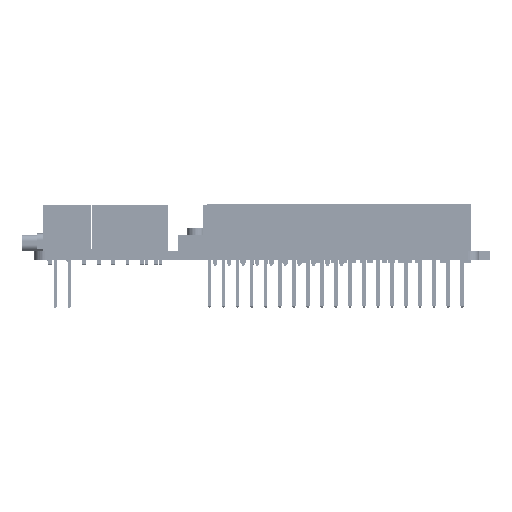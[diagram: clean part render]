
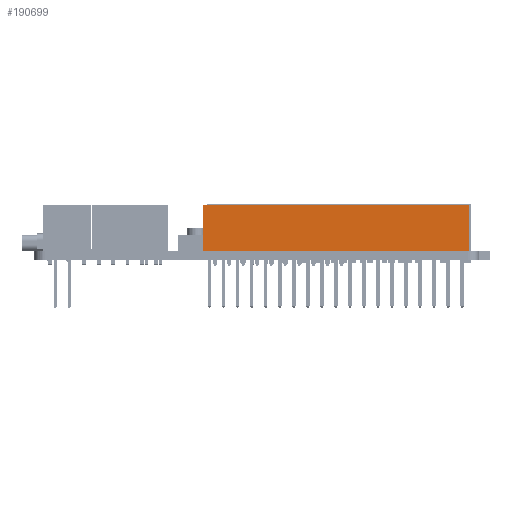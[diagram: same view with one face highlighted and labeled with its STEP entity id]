
A CAD part, left-side view. The second image highlights one B-rep face of the part: STEP entity #190699.
In plain terms, the highlighted planar face has unit normal (-1, 0, 0).
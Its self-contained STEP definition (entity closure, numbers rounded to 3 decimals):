
#190601 = EDGE_CURVE('',#190602,#190604,#190606,.T.);
#190602 = VERTEX_POINT('',#190603);
#190603 = CARTESIAN_POINT('',(-2.545,24.132,0.));
#190604 = VERTEX_POINT('',#190605);
#190605 = CARTESIAN_POINT('',(-2.545,24.132,8.38));
#190606 = LINE('',#190607,#190608);
#190607 = CARTESIAN_POINT('',(-2.545,24.132,0.));
#190608 = VECTOR('',#190609,1.);
#190609 = DIRECTION('',(0.,0.,1.));
#190674 = VERTEX_POINT('',#190675);
#190675 = CARTESIAN_POINT('',(-2.545,-24.132,8.38));
#190681 = EDGE_CURVE('',#190682,#190674,#190684,.T.);
#190682 = VERTEX_POINT('',#190683);
#190683 = CARTESIAN_POINT('',(-2.545,-24.132,0.));
#190684 = LINE('',#190685,#190686);
#190685 = CARTESIAN_POINT('',(-2.545,-24.132,0.));
#190686 = VECTOR('',#190687,1.);
#190687 = DIRECTION('',(0.,0.,1.));
#190699 = ADVANCED_FACE('',(#190700),#190716,.T.);
#190700 = FACE_BOUND('',#190701,.T.);
#190701 = EDGE_LOOP('',(#190702,#190703,#190709,#190710));
#190702 = ORIENTED_EDGE('',*,*,#190681,.T.);
#190703 = ORIENTED_EDGE('',*,*,#190704,.T.);
#190704 = EDGE_CURVE('',#190674,#190604,#190705,.T.);
#190705 = LINE('',#190706,#190707);
#190706 = CARTESIAN_POINT('',(-2.545,-24.132,8.38));
#190707 = VECTOR('',#190708,1.);
#190708 = DIRECTION('',(0.,1.,0.));
#190709 = ORIENTED_EDGE('',*,*,#190601,.F.);
#190710 = ORIENTED_EDGE('',*,*,#190711,.F.);
#190711 = EDGE_CURVE('',#190682,#190602,#190712,.T.);
#190712 = LINE('',#190713,#190714);
#190713 = CARTESIAN_POINT('',(-2.545,-24.132,0.));
#190714 = VECTOR('',#190715,1.);
#190715 = DIRECTION('',(0.,1.,0.));
#190716 = PLANE('',#190717);
#190717 = AXIS2_PLACEMENT_3D('',#190718,#190719,#190720);
#190718 = CARTESIAN_POINT('',(-2.545,-24.132,0.));
#190719 = DIRECTION('',(-1.,0.,0.));
#190720 = DIRECTION('',(0.,1.,0.));
